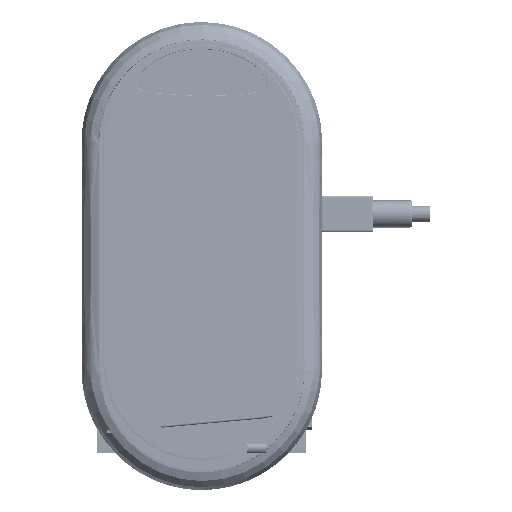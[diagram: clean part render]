
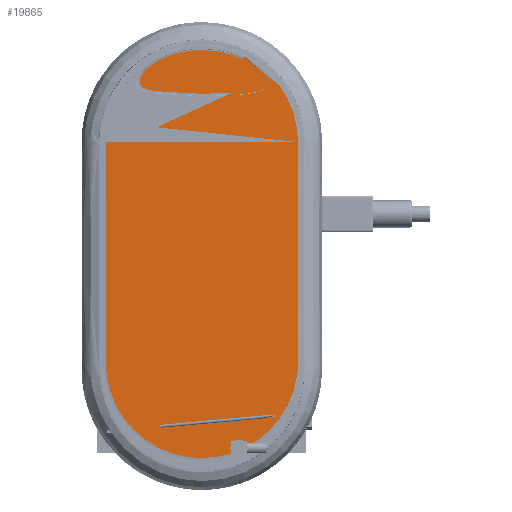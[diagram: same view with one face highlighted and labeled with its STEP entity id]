
A CAD part, front view. The second image highlights one B-rep face of the part: STEP entity #19865.
In plain terms, the highlighted planar face has unit normal (0, -1, 0) as drawn and (0, 0, -1) by its records, which use the part's own axes.
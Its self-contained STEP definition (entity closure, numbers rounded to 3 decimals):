
#19341=CARTESIAN_POINT('',(-24.809,69.,
-10.9));
#19342=CARTESIAN_POINT('',(-24.809,69.847,
-10.9));
#19343=CARTESIAN_POINT('',(-24.725,71.474,
-10.9));
#19344=CARTESIAN_POINT('',(-24.236,74.733,
-10.9));
#19345=CARTESIAN_POINT('',(-23.029,78.65,
-10.9));
#19346=CARTESIAN_POINT('',(-20.709,82.947,
-10.9));
#19347=CARTESIAN_POINT('',(-17.6,86.71,
-10.9));
#19348=CARTESIAN_POINT('',(-13.821,89.793,
-10.9));
#19349=CARTESIAN_POINT('',(-9.517,92.082,
-10.9));
#19350=CARTESIAN_POINT('',(-4.852,93.492,
-10.9));
#19351=CARTESIAN_POINT('',(-1.604,93.81,-10.9));
#19352=CARTESIAN_POINT('',(1.646,93.808,-10.9));
#19353=CARTESIAN_POINT('',(4.901,93.483,
-10.9));
#19354=CARTESIAN_POINT('',(9.574,92.059,
-10.9));
#19355=CARTESIAN_POINT('',(13.881,89.754,
-10.9));
#19356=CARTESIAN_POINT('',(17.656,86.655,
-10.9));
#19357=CARTESIAN_POINT('',(20.755,82.879,
-10.9));
#19358=CARTESIAN_POINT('',(23.06,78.573,
-10.9));
#19359=CARTESIAN_POINT('',(24.246,74.678,
-10.9));
#19360=CARTESIAN_POINT('',(24.726,71.455,
-10.9));
#19361=CARTESIAN_POINT('',(24.809,69.844,
-10.9));
#19362=CARTESIAN_POINT('',(24.809,69.,
-10.9));
#19364=DIRECTION('',(0.,1.,0.));
#19365=VECTOR('',#19364,56.7);
#19366=CARTESIAN_POINT('',(-24.809,12.3,-10.9));
#19367=LINE('',#19366,#19365);
#19368=CARTESIAN_POINT('',(24.809,12.3,-10.9));
#19369=CARTESIAN_POINT('',(24.809,11.456,
-10.9));
#19370=CARTESIAN_POINT('',(24.726,9.845,
-10.9));
#19371=CARTESIAN_POINT('',(24.247,6.622,
-10.9));
#19372=CARTESIAN_POINT('',(23.06,2.727,
-10.9));
#19373=CARTESIAN_POINT('',(20.755,-1.579,
-10.9));
#19374=CARTESIAN_POINT('',(17.656,-5.355,
-10.9));
#19375=CARTESIAN_POINT('',(13.881,-8.454,
-10.9));
#19376=CARTESIAN_POINT('',(9.574,-10.759,
-10.9));
#19377=CARTESIAN_POINT('',(4.901,-12.183,
-10.9));
#19378=CARTESIAN_POINT('',(1.646,-12.508,
-10.9));
#19379=CARTESIAN_POINT('',(-1.604,-12.51,
-10.9));
#19380=CARTESIAN_POINT('',(-4.852,-12.192,
-10.9));
#19381=CARTESIAN_POINT('',(-9.517,-10.782,
-10.9));
#19382=CARTESIAN_POINT('',(-13.821,-8.493,
-10.9));
#19383=CARTESIAN_POINT('',(-17.6,-5.41,
-10.9));
#19384=CARTESIAN_POINT('',(-20.709,-1.647,
-10.9));
#19385=CARTESIAN_POINT('',(-23.029,2.65,
-10.9));
#19386=CARTESIAN_POINT('',(-24.236,6.567,
-10.9));
#19387=CARTESIAN_POINT('',(-24.725,9.826,
-10.9));
#19388=CARTESIAN_POINT('',(-24.809,11.453,
-10.9));
#19389=CARTESIAN_POINT('',(-24.809,12.3,-10.9));
#19391=DIRECTION('',(0.,-1.,0.));
#19392=VECTOR('',#19391,56.7);
#19393=CARTESIAN_POINT('',(24.809,69.,
-10.9));
#19394=LINE('',#19393,#19392);
#19433=VERTEX_POINT('',#19341);
#19434=VERTEX_POINT('',#19362);
#19435=CARTESIAN_POINT('',(24.809,12.3,-10.9));
#19436=VERTEX_POINT('',#19435);
#19437=VERTEX_POINT('',#19389);
#19851=CARTESIAN_POINT('',(-1.904,40.65,-10.9));
#19852=DIRECTION('',(0.,0.,1.));
#19853=DIRECTION('',(1.,0.,0.));
#19854=AXIS2_PLACEMENT_3D('',#19851,#19852,#19853);
#19855=PLANE('',#19854);
#19857=ORIENTED_EDGE('',*,*,#19856,.F.);
#19859=ORIENTED_EDGE('',*,*,#19858,.F.);
#19860=ORIENTED_EDGE('',*,*,#19841,.F.);
#19862=ORIENTED_EDGE('',*,*,#19861,.F.);
#19863=EDGE_LOOP('',(#19857,#19859,#19860,#19862));
#19864=FACE_OUTER_BOUND('',#19863,.F.);
#19865=ADVANCED_FACE('',(#19864),#19855,.F.);
#19363=B_SPLINE_CURVE_WITH_KNOTS('',3,(#19341,#19342,#19343,#19344,#19345,
#19346,#19347,#19348,#19349,#19350,#19351,#19352,#19353,#19354,#19355,#19356,
#19357,#19358,#19359,#19360,#19361,#19362),.UNSPECIFIED.,.F.,.F.,(4,1,1,1,1,1,1,
1,1,1,1,1,1,1,1,1,1,1,1,4),(0.,0.031,0.063,0.125,0.188,
0.25,0.313,0.375,0.437,0.5,0.5,0.563,
0.625,0.688,0.75,0.813,0.875,0.938,0.969,
1.),.UNSPECIFIED.);
#19390=B_SPLINE_CURVE_WITH_KNOTS('',3,(#19368,#19369,#19370,#19371,#19372,
#19373,#19374,#19375,#19376,#19377,#19378,#19379,#19380,#19381,#19382,#19383,
#19384,#19385,#19386,#19387,#19388,#19389),.UNSPECIFIED.,.F.,.F.,(4,1,1,1,1,1,1,
1,1,1,1,1,1,1,1,1,1,1,1,4),(0.,0.031,0.062,0.125,0.187,
0.25,0.312,0.375,0.437,0.5,0.5,0.563,
0.625,0.687,0.75,0.812,0.875,0.937,0.969,
1.),.UNSPECIFIED.);
#19841=EDGE_CURVE('',#19436,#19437,#19390,.T.);
#19856=EDGE_CURVE('',#19433,#19434,#19363,.T.);
#19858=EDGE_CURVE('',#19437,#19433,#19367,.T.);
#19861=EDGE_CURVE('',#19434,#19436,#19394,.T.);
